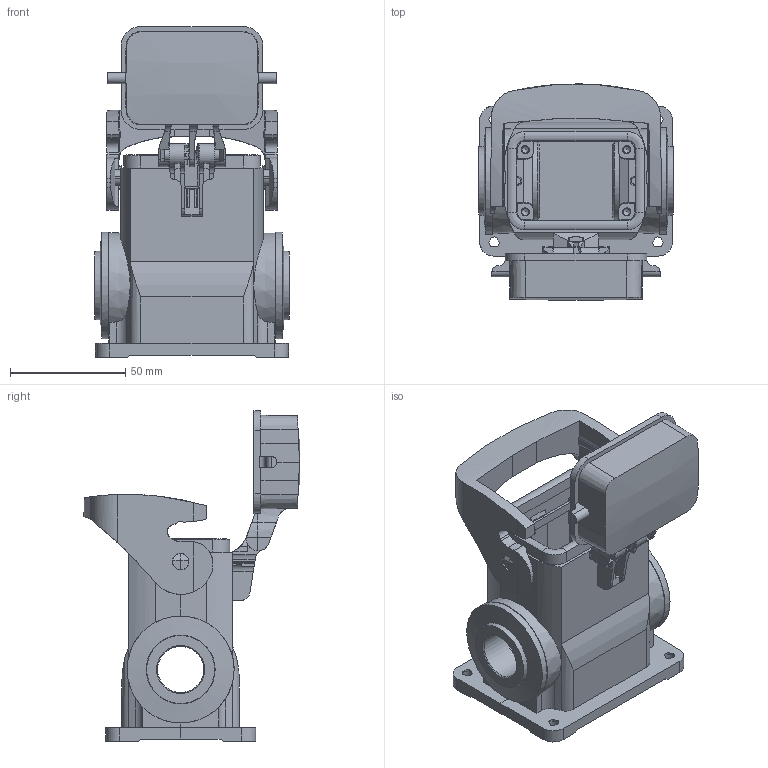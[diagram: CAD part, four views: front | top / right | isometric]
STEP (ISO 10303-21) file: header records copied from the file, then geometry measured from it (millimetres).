
FILE_DESCRIPTION(/* description */ (''),/* implementation_level */ '2;1');
FILE_NAME(/* name */ '100765852ugm000_d.stp',/* time_stamp */ '2022-07-12T13:21:00+02:00',/* author */ (''),/* organization */ (''),/* preprocessor_version */ 'ST-DEVELOPER v16.7',/* originating_system */ 'SIEMENS PLM Software NX 1911',/* authorisation */ '');
FILE_SCHEMA (('AUTOMOTIVE_DESIGN { 1 0 10303 214 3 1 1 1 }'));
Length unit declared in the file: millimetre
Products named in the file (1): 100765852ugm000_d
Bounding box: 84.3 x 93.82 x 143.4 mm (x, y, z)
Volume: 36165 mm3; surface area: 76560.1 mm2
Topology: 2 solids, 624 shells, 857 faces, 4052 edges, 3774 vertices
Faces by surface type: plane 563, cylinder 203, cone 70, bspline 14, torus 4, extrusion 3
Full cylindrical faces by diameter (mm): 1.594 x1, 1.884 x1, 3 x4, 3.4 x4, 3.5 x4, 4.8 x2, 7.2 x2, 20 x2, 30 x2, 46.4 x2
Entity records: 54080 total; most frequent: CARTESIAN_POINT 11532, DIRECTION 6365, ORIENTED_EDGE 4658, EDGE_CURVE 3986, VERTEX_POINT 3757, VECTOR 2717, LINE 2714, AXIS2_PLACEMENT_3D 1824
